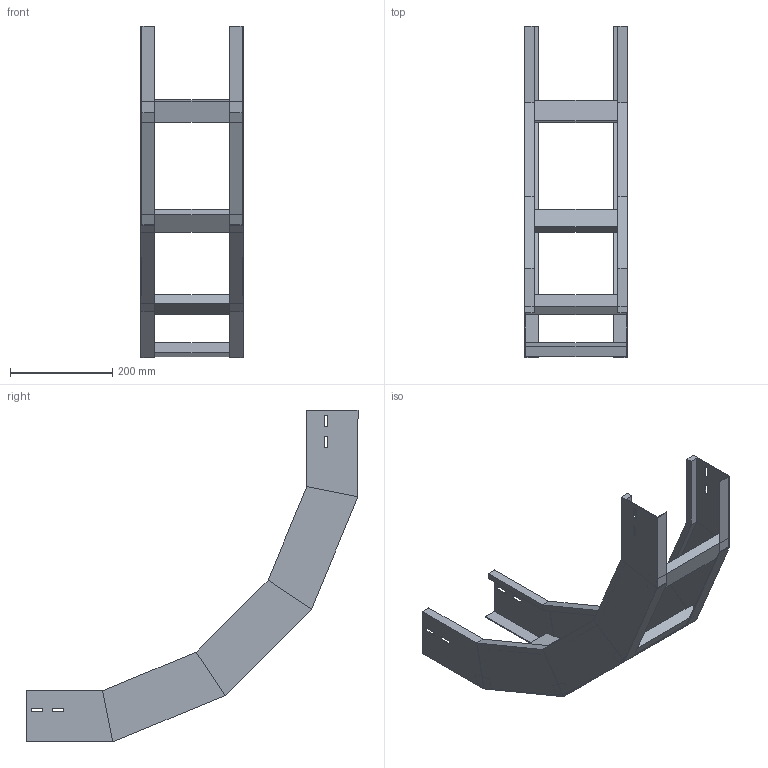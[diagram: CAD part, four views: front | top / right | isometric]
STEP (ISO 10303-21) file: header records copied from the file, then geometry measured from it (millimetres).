
FILE_DESCRIPTION (( 'STEP AP214' ), '1' );
FILE_NAME ('A2X30B5D200XX.step', '2025-03-20T10:19:30', ( '' ), ( '' ), 'SwSTEP 2.0', 'SolidWorks 2023', '' );
FILE_SCHEMA (( 'AUTOMOTIVE_DESIGN' ));
Length unit declared in the file: millimetre
Products named in the file (3): TRAVERSINO_200; A2X30B5D200XX; LONGH.SALITA_90°_H100_R500
Assembly tree (6 placements, depth 2):
  A2X30B5D200XX
    LONGH.SALITA_90°_H100_R500  x2
    TRAVERSINO_200  x4
Bounding box: 200 x 649.05 x 649.05 mm (x, y, z)
Volume: 1474445.4 mm3; surface area: 661983.1 mm2
Topology: 6 solids, 6 shells, 140 faces, 320 edges, 192 vertices
Faces by surface type: plane 140
Entity records: 1872 total; most frequent: CARTESIAN_POINT 309, ORIENTED_EDGE 296, DIRECTION 294, VECTOR 148, LINE 148, EDGE_CURVE 148, VERTEX_POINT 88, AXIS2_PLACEMENT_3D 73
